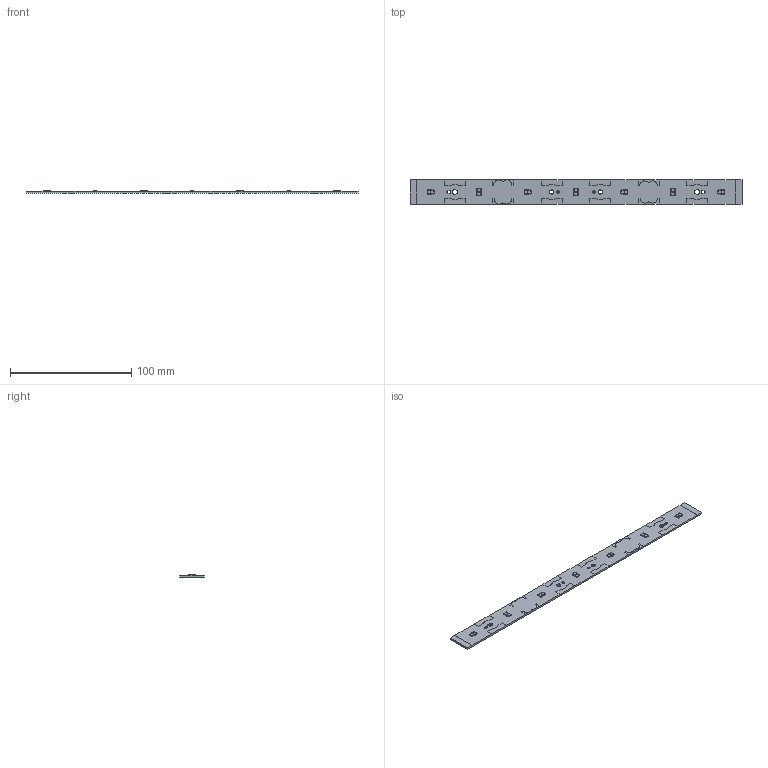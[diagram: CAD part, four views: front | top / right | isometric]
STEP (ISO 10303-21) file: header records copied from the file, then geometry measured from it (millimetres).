
FILE_DESCRIPTION(('CATIA V5 STEP Exchange'),'2;1');
FILE_NAME('C:\Users\jari.kinanen\Desktop\CAT_Exports\DAISY-7x1-FAMILY PWB_17112020.stp','2020-11-18T12:26:47+00:00',('none'),('none'),'CATIA Version 5-6 Release 2018 SP4','CATIA V5 STEP AP203','none');
FILE_SCHEMA(('CONFIG_CONTROL_DESIGN'));
Length unit declared in the file: millimetre
Products named in the file (1): DAISY-7X1-FAMILY PWB
Bounding box: 274 x 20 x 2.35 mm (x, y, z)
Volume: 8785.7 mm3; surface area: 12311.8 mm2
Topology: 15 solids, 15 shells, 936 faces, 2800 edges, 1916 vertices
Faces by surface type: plane 596, extrusion 252, cylinder 88
Entity records: 32580 total; most frequent: CARTESIAN_POINT 10501, ORIENTED_EDGE 5576, EDGE_CURVE 2788, DIRECTION 2768, VECTOR 2036, VERTEX_POINT 1896, LINE 1784, B_SPLINE_CURVE_WITH_KNOTS 1176
